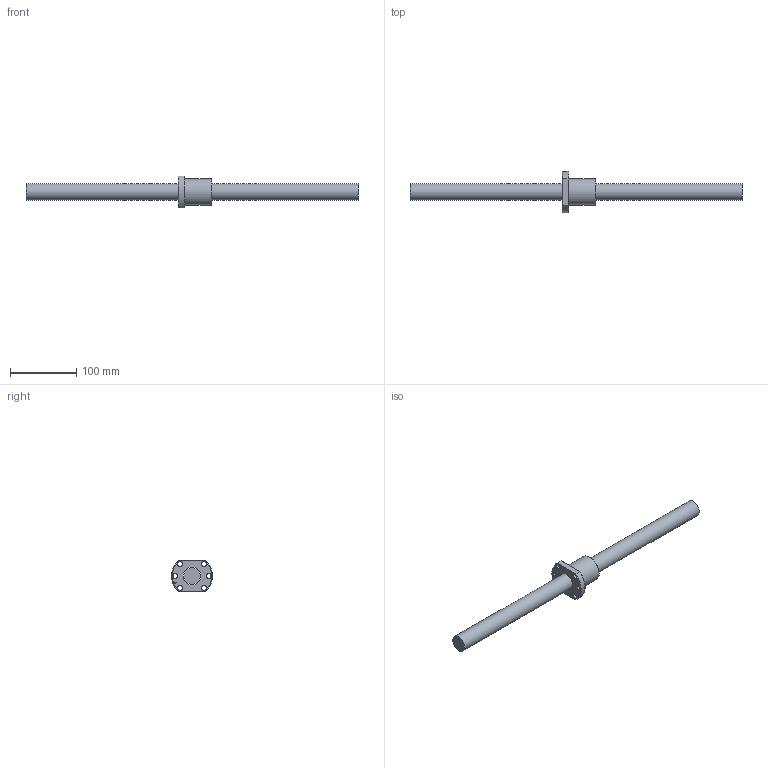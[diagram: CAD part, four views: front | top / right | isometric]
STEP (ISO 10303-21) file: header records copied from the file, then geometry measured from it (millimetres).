
FILE_DESCRIPTION (( 'STEP AP203' ), '1' );
FILE_NAME ('SFNU02505D-4.step', '2024-05-14T06:34:20', ( '' ), ( '' ), 'SwSTEP 2.0', 'SolidWorks 2022', '' );
FILE_SCHEMA (( 'CONFIG_CONTROL_DESIGN' ));
Length unit declared in the file: millimetre
Products named in the file (1): SFNU02505D-4
Bounding box: 500 x 61.8 x 48 mm (x, y, z)
Volume: 291393.9 mm3; surface area: 56556 mm2
Topology: 2 solids, 2 shells, 54 faces, 139 edges, 90 vertices
Faces by surface type: cylinder 19, cone 13, plane 12, bspline 5, torus 5
Full cylindrical faces by diameter (mm): 4 x1, 5 x6, 6.6 x6, 25 x1, 27.1 x1, 40 x1
Entity records: 3133 total; most frequent: CARTESIAN_POINT 2097, DIRECTION 186, ORIENTED_EDGE 166, EDGE_LOOP 90, AXIS2_PLACEMENT_3D 85, EDGE_CURVE 83, VERTEX_POINT 67, FACE_OUTER_BOUND 60
